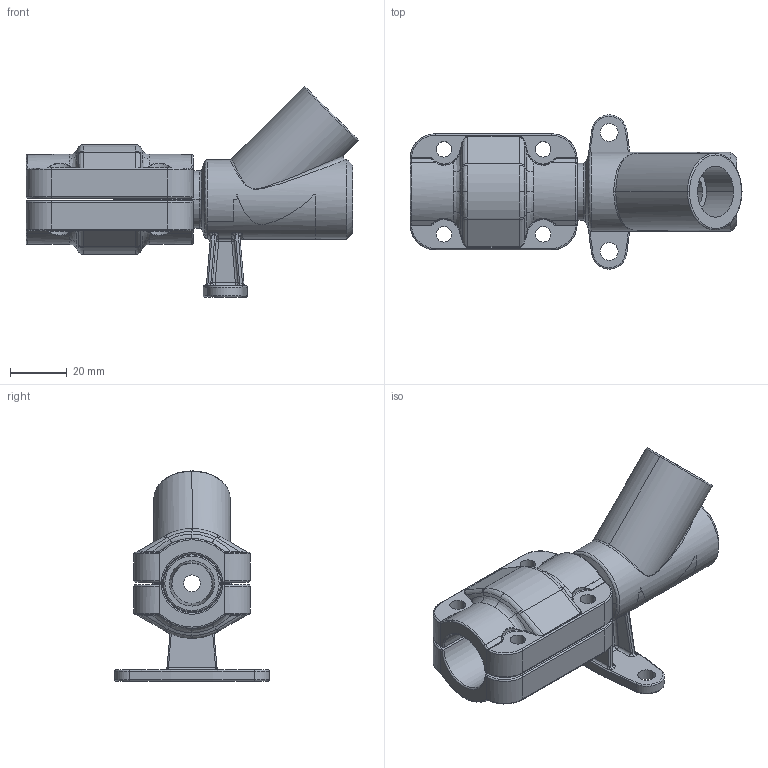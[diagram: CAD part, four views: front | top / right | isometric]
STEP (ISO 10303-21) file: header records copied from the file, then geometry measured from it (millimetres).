
FILE_DESCRIPTION(/* description */ (''),/* implementation_level */ '2;1');
FILE_NAME(/* name */ '1123.stp',/* time_stamp */ '2022-05-10T09:27:43+08:00',/* author */ (''),/* organization */ (''),/* preprocessor_version */ 'ST-DEVELOPER v11',/* originating_system */ 'SIEMENS PLM Software NX 7.5',/* authorisation */ '');
FILE_SCHEMA (('CONFIG_CONTROL_DESIGN'));
Length unit declared in the file: millimetre
Products named in the file (1): AdmiE323n7ey
Bounding box: 117.24 x 54.46 x 74.24 mm (x, y, z)
Volume: 83991 mm3; surface area: 33860.2 mm2
Topology: 3 solids, 3 shells, 518 faces, 1230 edges, 720 vertices
Faces by surface type: bspline 184, cylinder 159, plane 77, torus 63, cone 27, sphere 8
Full cylindrical faces by diameter (mm): 6.3 x2, 11 x1
Entity records: 22342 total; most frequent: CARTESIAN_POINT 11623, ORIENTED_EDGE 2452, DIRECTION 1952, EDGE_CURVE 1226, AXIS2_PLACEMENT_3D 799, VERTEX_POINT 724, EDGE_LOOP 552, ADVANCED_FACE 518
